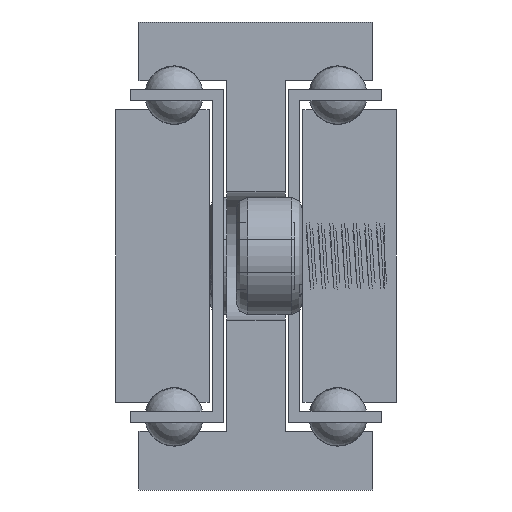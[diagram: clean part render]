
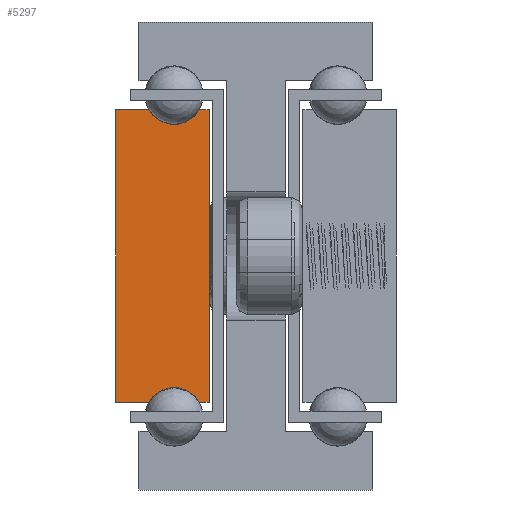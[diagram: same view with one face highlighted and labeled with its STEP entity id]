
A CAD part, front view. The second image highlights one B-rep face of the part: STEP entity #5297.
In plain terms, the highlighted planar face has unit normal (0, -1, 0).
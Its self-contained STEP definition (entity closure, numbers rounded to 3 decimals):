
#192=LINE('',#7636,#738);
#195=LINE('',#7642,#741);
#199=LINE('',#7654,#745);
#202=LINE('',#7660,#748);
#205=LINE('',#7666,#751);
#209=LINE('',#7676,#755);
#738=VECTOR('',#6158,1.);
#741=VECTOR('',#6163,1.);
#745=VECTOR('',#6175,1.);
#748=VECTOR('',#6180,1.);
#751=VECTOR('',#6185,1.);
#755=VECTOR('',#6197,1.);
#1289=PLANE('',#5687);
#1651=FACE_OUTER_BOUND('',#1987,.T.);
#1987=EDGE_LOOP('',(#3870,#3871,#3872,#3873,#3874,#3875,#3876,#3877));
#2427=CIRCLE('',#5678,2.5);
#2429=CIRCLE('',#5684,2.5);
#2574=VERTEX_POINT('',#7633);
#2575=VERTEX_POINT('',#7635);
#2577=VERTEX_POINT('',#7641);
#2579=VERTEX_POINT('',#7647);
#2581=VERTEX_POINT('',#7653);
#2583=VERTEX_POINT('',#7659);
#2585=VERTEX_POINT('',#7665);
#2587=VERTEX_POINT('',#7671);
#3116=EDGE_CURVE('',#2575,#2574,#192,.T.);
#3119=EDGE_CURVE('',#2577,#2575,#195,.T.);
#3122=EDGE_CURVE('',#2579,#2577,#2427,.T.);
#3125=EDGE_CURVE('',#2581,#2579,#199,.T.);
#3128=EDGE_CURVE('',#2583,#2581,#202,.T.);
#3131=EDGE_CURVE('',#2585,#2583,#205,.T.);
#3134=EDGE_CURVE('',#2587,#2585,#2429,.T.);
#3137=EDGE_CURVE('',#2574,#2587,#209,.T.);
#3870=ORIENTED_EDGE('',*,*,#3137,.T.);
#3871=ORIENTED_EDGE('',*,*,#3134,.T.);
#3872=ORIENTED_EDGE('',*,*,#3131,.T.);
#3873=ORIENTED_EDGE('',*,*,#3128,.T.);
#3874=ORIENTED_EDGE('',*,*,#3125,.T.);
#3875=ORIENTED_EDGE('',*,*,#3122,.T.);
#3876=ORIENTED_EDGE('',*,*,#3119,.T.);
#3877=ORIENTED_EDGE('',*,*,#3116,.T.);
#5297=ADVANCED_FACE('',(#1651),#1289,.T.);
#5678=AXIS2_PLACEMENT_3D('',#7648,#6169,#6170);
#5684=AXIS2_PLACEMENT_3D('',#7672,#6191,#6192);
#5687=AXIS2_PLACEMENT_3D('',#7678,#6200,#6201);
#6158=DIRECTION('',(0.,0.,-1.));
#6163=DIRECTION('',(-1.,0.,0.));
#6169=DIRECTION('center_axis',(0.,1.,0.));
#6170=DIRECTION('ref_axis',(-0.866,0.,-0.5));
#6175=DIRECTION('',(-1.,0.,0.));
#6180=DIRECTION('',(0.,0.,1.));
#6185=DIRECTION('',(1.,0.,0.));
#6191=DIRECTION('center_axis',(0.,1.,0.));
#6192=DIRECTION('ref_axis',(0.866,0.,0.5));
#6197=DIRECTION('',(1.,0.,0.));
#6200=DIRECTION('center_axis',(0.,-1.,0.));
#6201=DIRECTION('ref_axis',(1.,0.,0.));
#7633=CARTESIAN_POINT('',(1898.71,1951.429,237.5));
#7635=CARTESIAN_POINT('',(1898.71,1951.429,262.5));
#7636=CARTESIAN_POINT('',(1898.71,1951.429,237.5));
#7641=CARTESIAN_POINT('',(1901.545,1951.429,262.5));
#7642=CARTESIAN_POINT('',(1898.71,1951.429,262.5));
#7647=CARTESIAN_POINT('',(1905.875,1951.429,262.5));
#7648=CARTESIAN_POINT('Origin',(1903.71,1951.429,263.75));
#7653=CARTESIAN_POINT('',(1906.71,1951.429,262.5));
#7654=CARTESIAN_POINT('',(1905.875,1951.429,262.5));
#7659=CARTESIAN_POINT('',(1906.71,1951.429,237.5));
#7660=CARTESIAN_POINT('',(1906.71,1951.429,262.5));
#7665=CARTESIAN_POINT('',(1905.875,1951.429,237.5));
#7666=CARTESIAN_POINT('',(1906.71,1951.429,237.5));
#7671=CARTESIAN_POINT('',(1901.545,1951.429,237.5));
#7672=CARTESIAN_POINT('Origin',(1903.71,1951.429,236.25));
#7676=CARTESIAN_POINT('',(1901.545,1951.429,237.5));
#7678=CARTESIAN_POINT('Origin',(1902.698,1951.429,250.));
